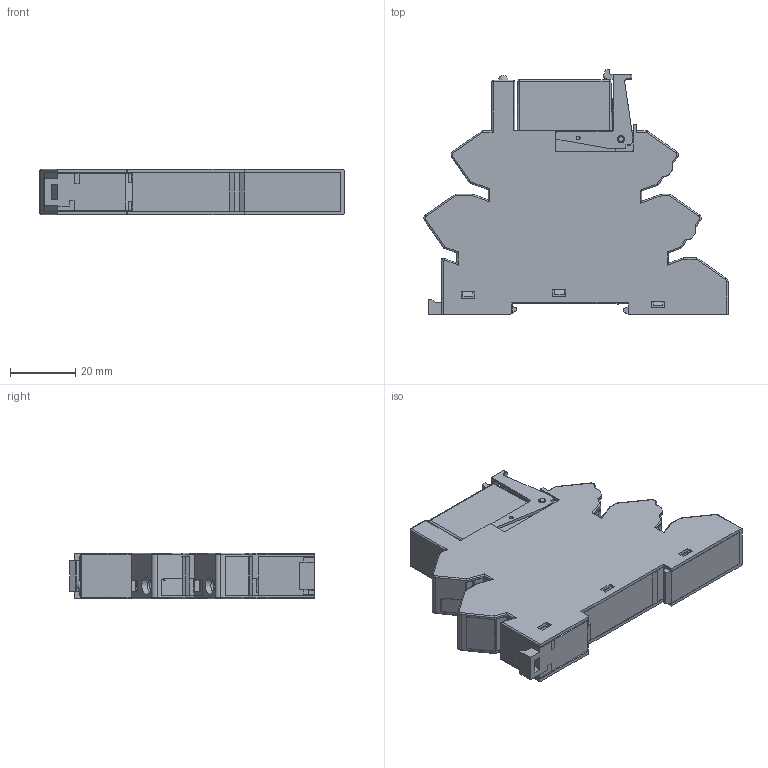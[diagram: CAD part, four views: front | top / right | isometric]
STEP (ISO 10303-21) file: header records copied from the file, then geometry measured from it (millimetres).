
FILE_DESCRIPTION(('STEP AP214'),'2;1');
FILE_NAME('3841---9352_with_4181.stp','2012-03-19T16:57:33',(''),(''),'2007.1.106','THINKDESIGN','');
FILE_SCHEMA(('AUTOMOTIVE_DESIGN'));
Length unit declared in the file: millimetre
Products named in the file (1): top
Bounding box: 93 x 74.9 x 14 mm (x, y, z)
Surface area: 34205.3 mm2 (no closed solid volume)
Topology: 0 solids, 0 shells, 888 faces, 5596 edges, 5589 vertices
Faces by surface type: plane 656, cylinder 197, bspline 35
Full cylindrical faces by diameter (mm): 1.2 x2, 1.5 x2, 2.2 x2, 3.8 x8
Entity records: 47441 total; most frequent: CARTESIAN_POINT 15099, DIRECTION 7035, COMPOSITE_CURVE_SEGMENT 5589, TRIMMED_CURVE 5007, VECTOR 4687, LINE 4687, AXIS2_PLACEMENT_3D 1174, OUTER_BOUNDARY_CURVE 888
